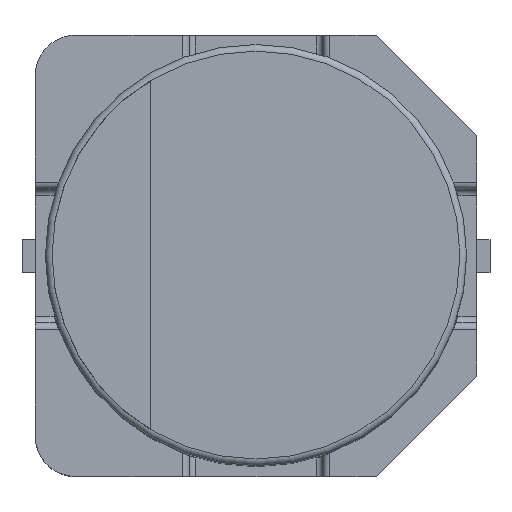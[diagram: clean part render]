
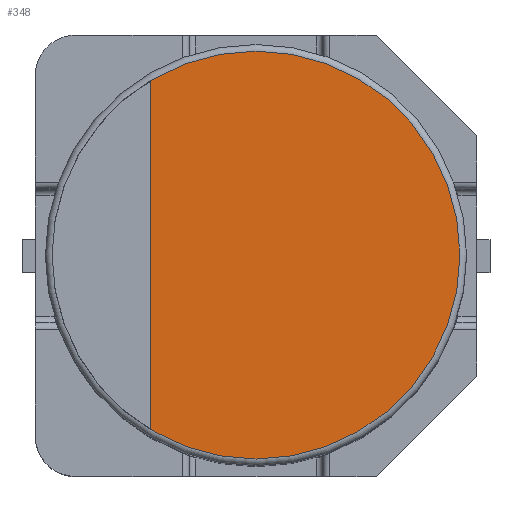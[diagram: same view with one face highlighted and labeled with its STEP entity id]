
A CAD part, top view. The second image highlights one B-rep face of the part: STEP entity #348.
In plain terms, the highlighted planar face has unit normal (0, 0, 1).
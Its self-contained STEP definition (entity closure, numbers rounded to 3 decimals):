
#348=ADVANCED_FACE('',(#505),#420,.F.);
#420=PLANE('',#1935);
#505=FACE_OUTER_BOUND('',#617,.T.);
#617=EDGE_LOOP('',(#984));
#710=CIRCLE('',#1934,3.05);
#984=ORIENTED_EDGE('',*,*,#1448,.T.);
#1255=VERTEX_POINT('',#2987);
#1448=EDGE_CURVE('',#1255,#1255,#710,.T.);
#1934=AXIS2_PLACEMENT_3D('',#2986,#2269,#2270);
#1935=AXIS2_PLACEMENT_3D('',#2988,#2271,#2272);
#2269=DIRECTION('',(0.,0.,1.));
#2270=DIRECTION('',(-1.,0.,0.));
#2271=DIRECTION('',(0.,0.,-1.));
#2272=DIRECTION('',(-1.,0.,0.));
#2986=CARTESIAN_POINT('',(0.,0.,9.7));
#2987=CARTESIAN_POINT('',(-3.05,0.,9.7));
#2988=CARTESIAN_POINT('',(0.,0.,9.7));
